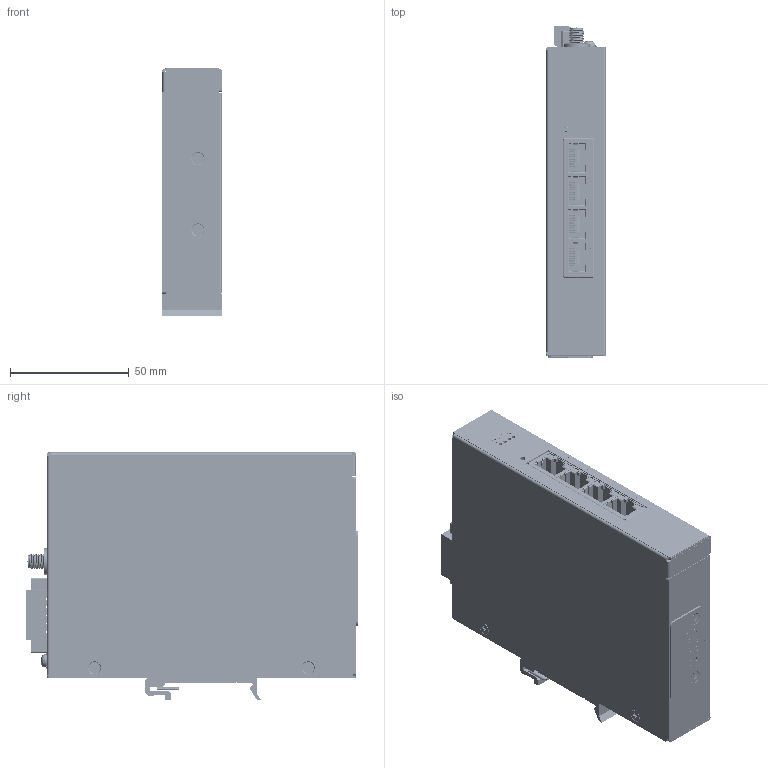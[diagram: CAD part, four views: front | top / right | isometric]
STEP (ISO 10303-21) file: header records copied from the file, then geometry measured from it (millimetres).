
FILE_DESCRIPTION (( 'STEP AP214' ), '1' );
FILE_NAME ('ICR-2501W_DIN_holder.STEP', '2024-10-03T13:37:35', ( '' ), ( '' ), 'SwSTEP 2.0', 'SolidWorks 2024', '' );
FILE_SCHEMA (( 'AUTOMOTIVE_DESIGN' ));
Length unit declared in the file: millimetre
Products named in the file (32): SCR_ZC_M3_L10_PH_BN; B-ICR-WIFI-20(4,5,6)xx-A107-1; Chassis_for_ICR-25xx(G_W); RJ45_1x4_8p_Connector; Terminal_Block_1x6P; SIM7155-6-1-14-A_PART1; Cover_for_ICR_25xx; SMA_1P; DIN_25_AL; PUSH_SW_3P; PCB_ICR-25(6)xx; Plate_for_SIM_ICR-2(0,4,5,6)xx; SCR_ZC_M3_L6_PH_PW; SCR_BK_M3_L5_PH_FL_TW; LED_HOLDER_GGGG; VMC-2024-07-1_Label - DO NOT Insert SIM_A; SCR_ZC_M3_L6_PH_PW_2; SIM7155-6-1-14-A_PART2; VMC-2024-07-1_Label - DO NOT Insert SIM; Micro_SIM_ card_Connector; Post_D3xL5; Plug-In_Block_1x6P; Washer_V2i_AUX_W; BTB_20P_Connector; SCR_BK_M3_L5_PH_FL_TW_GLUE; ICR-2501W_DIN_holder; ICR-2501_FRONT_Label; B-ICR2501 A101-3; VMC-2024-07-1_Label - DO NOT Insert SIM_B; Pin_Header_5x2P; BTB_20P_Conn; PCB-WIFI-20(4,5,6)xx
Assembly tree (43 placements, depth 4):
  ICR-2501W_DIN_holder
    B-ICR2501 A101-3
      PCB_ICR-25(6)xx
      Micro_SIM_ card_Connector  x2
        SIM7155-6-1-14-A_PART1
        SIM7155-6-1-14-A_PART2
      Terminal_Block_1x6P
      RJ45_1x4_8p_Connector
      PUSH_SW_3P
      LED_HOLDER_GGGG  x2
      Pin_Header_5x2P
      BTB_20P_Connector
    B-ICR-WIFI-20(4,5,6)xx-A107-1
      PCB-WIFI-20(4,5,6)xx
      BTB_20P_Conn
      SMA_1P
      Post_D3xL5
    Chassis_for_ICR-25xx(G_W)
    Cover_for_ICR_25xx
    Plate_for_SIM_ICR-2(0,4,5,6)xx
    Washer_V2i_AUX_W
    Plug-In_Block_1x6P
    ICR-2501_FRONT_Label
    VMC-2024-07-1_Label - DO NOT Insert SIM
      VMC-2024-07-1_Label - DO NOT Insert SIM_A
      VMC-2024-07-1_Label - DO NOT Insert SIM_B  x2
    SCR_BK_M3_L5_PH_FL_TW  x5
    SCR_BK_M3_L5_PH_FL_TW_GLUE  x4
    SCR_ZC_M3_L6_PH_PW_2
    SCR_ZC_M3_L6_PH_PW  x3
    SCR_ZC_M3_L10_PH_BN
    DIN_25_AL
Bounding box: 25 x 139.9 x 104.51 mm (x, y, z)
Volume: 68221.8 mm3; surface area: 145149 mm2
Topology: 247 solids, 257 shells, 18101 faces, 49191 edges, 31458 vertices
Faces by surface type: plane 13112, cylinder 3609, bspline 812, cone 293, sphere 184, torus 91
Entity records: 682783 total; most frequent: CARTESIAN_POINT 138625, ORIENTED_EDGE 88242, DIRECTION 80176, EDGE_CURVE 44124, VECTOR 35776, LINE 35776, VERTEX_POINT 28261, AXIS2_PLACEMENT_3D 22200
